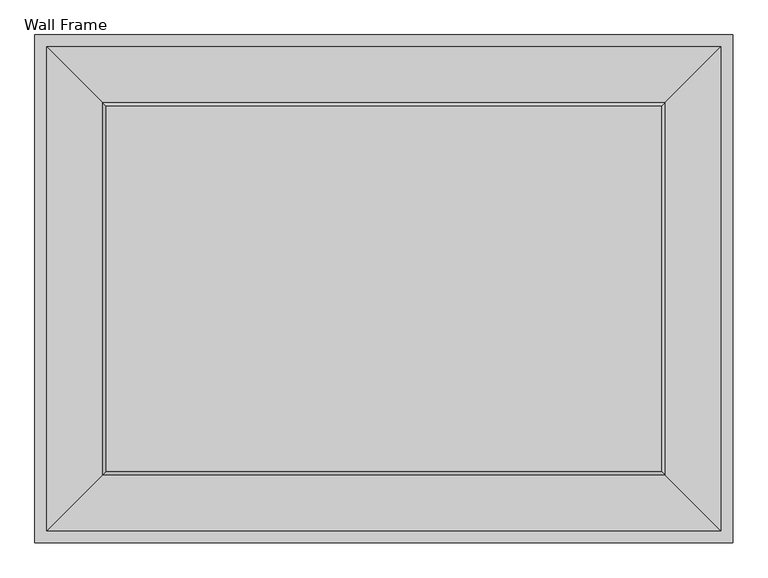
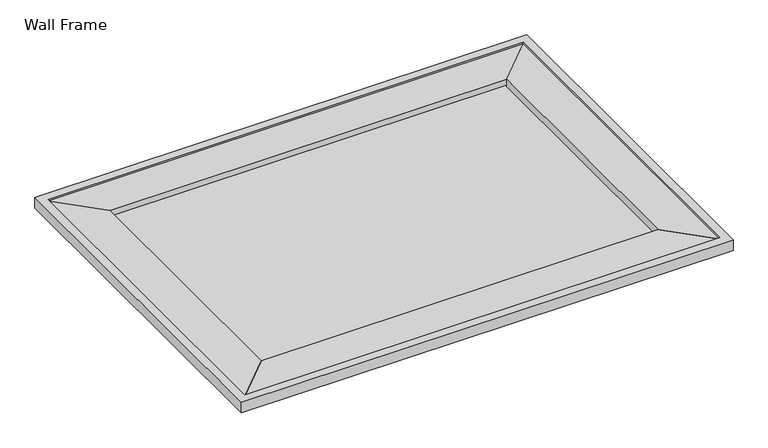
"""IFC4 building model written with IfcOpenShell, lengths in millimetres: furniture geometry."""

from ifc_helpers import new_model, si_unit, origin, origin_with_axes, place, context, project, spatial, polyline, outline, extrude, faceted_brep, source, transform, mapped, element, save


def wall_frame_6613b714(model_context):
    return source(origin(), model_context, "Body", "SolidModel", [
        extrude(outline(polyline([(558.8, 406.4), (558.8, -406.4), (-558.8, -406.4), (-558.8, 406.4), (558.8, 406.4)]), holes=[polyline([(539.75, 387.35), (-539.75, 387.35), (-539.75, -387.35), (539.75, -387.35), (539.75, 387.35)])]), origin_with_axes(), (0.0, 0.0, 1.0), 25.4),
        extrude(outline(polyline([(-450.85, 298.45), (-450.85, -298.45), (-539.75, -387.35), (-539.75, 387.35), (-450.85, 298.45)])), origin_with_axes(), (0.0, 0.0, 1.0), 22.225),
        extrude(outline(polyline([(450.85, -298.45), (450.85, 298.45), (539.75, 387.35), (539.75, -387.35), (450.85, -298.45)])), origin_with_axes(), (0.0, 0.0, 1.0), 22.225),
        faceted_brep([(444.5, 292.1, 12.7), (-444.5, 292.1, 12.7), (-444.5, -292.1, 12.7), (444.5, -292.1, 12.7), (450.85, 298.45, 0.0), (450.85, -298.45, 0.0), (-450.85, -298.45, 0.0), (-450.85, 298.45, 0.0)], [[[0, 1, 2, 3]], [[4, 5, 6, 7]], [[4, 7, 1, 0]], [[7, 6, 2, 1]], [[6, 5, 3, 2]], [[5, 4, 0, 3]]]),
        extrude(outline(polyline([(-450.85, 298.45), (-539.75, 387.35), (539.75, 387.35), (450.85, 298.45), (-450.85, 298.45)])), origin_with_axes(), (0.0, 0.0, 1.0), 22.225),
        extrude(outline(polyline([(450.85, -298.45), (539.75, -387.35), (-539.75, -387.35), (-450.85, -298.45), (450.85, -298.45)])), origin_with_axes(), (0.0, 0.0, 1.0), 22.225),
    ])


if __name__ == "__main__":
    model = new_model("IFC4")
    model_context = context("Model", 3, world=origin())
    ifc_project = project(units=[si_unit("LENGTHUNIT", "METRE", prefix="MILLI")], contexts=[model_context])
    site = spatial("IfcSite", under=ifc_project)
    building = spatial("IfcBuilding", under=site)
    placement = place(None, origin())
    wall_frame_shape = wall_frame_6613b714(model_context)
    element("IfcFurniture", 1, ObjectType="Wall Frame : 3'-8\"W x 2'-8\"H (Mirror)", at=placement, inside=building, context=model_context, shape_type="MappedRepresentation", body=[
        mapped(wall_frame_shape, transform((0.0, 0.0, 0.0), x_axis=(1.0, 0.0, 0.0), y_axis=(0.0, 1.0, 0.0), z_axis=(0.0, 0.0, 1.0))),
    ])
    save(model, "model.ifc")
